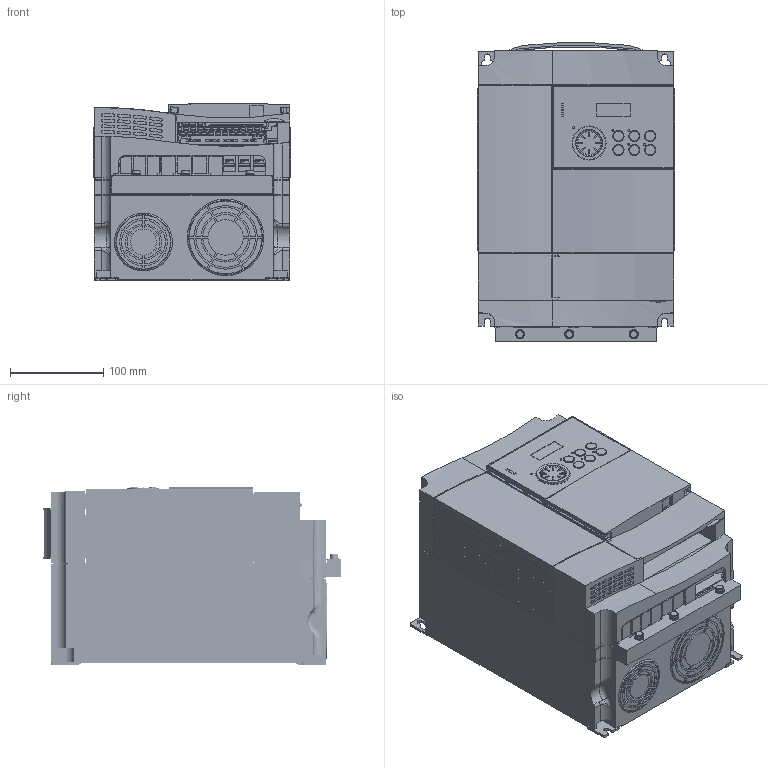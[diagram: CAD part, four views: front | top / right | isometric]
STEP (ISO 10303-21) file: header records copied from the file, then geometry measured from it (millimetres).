
FILE_DESCRIPTION((''),'2;1');
FILE_NAME('VFAS3J_J4_ASM','2019-09-10T09:47:52',('sesa57331'),('Schneider-Electric'),'CREO PARAMETRIC BY PTC INC, 2018300','CREO PARAMETRIC BY PTC INC, 2018300','');
FILE_SCHEMA(('CONFIG_CONTROL_DESIGN'));
Products named in the file (17): VFAS3J_DRIVE_J4; VFAS3J_TOP_COVER_J3-5; VFAS3J_DISPLAY; VFAS3J_CTR_TERM; VFAS3J_CTR_TERM_SHORT_BAR; VFAS3J_CTR_TERM_SCREW_M3-1; VFAS3J_CTR_TERM_SCREW_M3-2; VFAS3J_CTR_TERM_FL_COVER; VFAS3J_CTR_TERM_ASM; VFAS3J_DISPLAY_COVER; TERM_16MM_M5_SHORT_BAR; TERM_16MM_M5; SCREW_M5X12; VFAS3J_POWER_TERM_COVER_J4; VFAS3J_POWER_TERM_TRAP; VFAS3J_POWER_TERM_COVER_J4_ASM; VFAS3J_J4_ASM
Assembly tree (53 placements, depth 3):
  VFAS3J_J4_ASM
    VFAS3J_DRIVE_J4
    VFAS3J_TOP_COVER_J3-5
    VFAS3J_DISPLAY
    VFAS3J_CTR_TERM_ASM
      VFAS3J_CTR_TERM
      VFAS3J_CTR_TERM_SHORT_BAR  x2
      VFAS3J_CTR_TERM_SCREW_M3-1  x23
      VFAS3J_CTR_TERM_SCREW_M3-2  x3
      VFAS3J_CTR_TERM_FL_COVER
    VFAS3J_DISPLAY_COVER
    TERM_16MM_M5_SHORT_BAR
    TERM_16MM_M5  x10
    SCREW_M5X12  x4
    VFAS3J_POWER_TERM_COVER_J4_ASM
      VFAS3J_POWER_TERM_COVER_J4
      VFAS3J_POWER_TERM_TRAP
Bounding box: 212 x 319.69 x 190.28 mm (x, y, z)
Volume: 6938689.6 mm3; surface area: 972271.5 mm2
Topology: 51 solids, 53 shells, 5460 faces, 14616 edges, 9629 vertices
Faces by surface type: plane 4085, cylinder 1223, torus 112, bspline 20, cone 12, sphere 4, revolution 4
Entity records: 157201 total; most frequent: CARTESIAN_POINT 29338, ORIENTED_EDGE 26912, DIRECTION 25633, EDGE_CURVE 13456, VECTOR 11031, LINE 11031, VERTEX_POINT 8871, AXIS2_PLACEMENT_3D 7299
